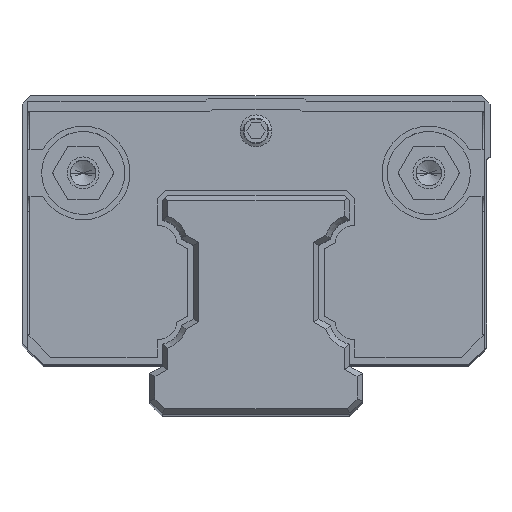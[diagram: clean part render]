
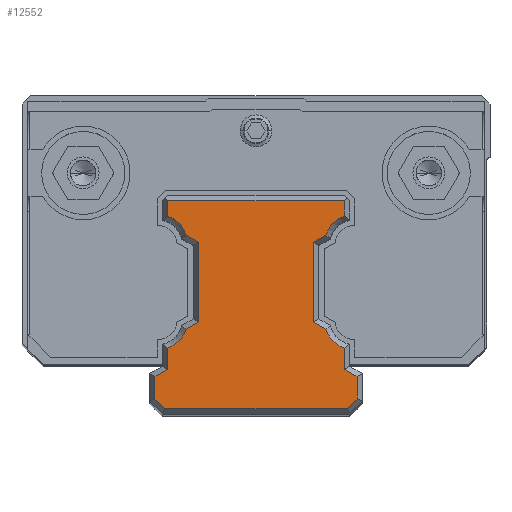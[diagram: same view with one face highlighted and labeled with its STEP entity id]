
A CAD part, top view. The second image highlights one B-rep face of the part: STEP entity #12552.
In plain terms, the highlighted planar face has unit normal (0, 0, 1).
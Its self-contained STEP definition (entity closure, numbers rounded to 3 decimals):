
#11866=DIRECTION('',(-1.,0.,0.));
#11867=VECTOR('',#11866,16.6);
#11868=CARTESIAN_POINT('',(8.3,7.65,65.5));
#11869=LINE('',#11868,#11867);
#11870=DIRECTION('',(0.,1.,0.));
#11871=VECTOR('',#11870,1.445);
#11872=CARTESIAN_POINT('',(8.3,6.205,65.5));
#11873=LINE('',#11872,#11871);
#11874=DIRECTION('',(0.866,0.5,0.));
#11875=VECTOR('',#11874,1.345);
#11876=CARTESIAN_POINT('',(5.4,3.739,65.5));
#11877=LINE('',#11876,#11875);
#11878=DIRECTION('',(0.,1.,0.));
#11879=VECTOR('',#11878,7.477);
#11880=CARTESIAN_POINT('',(5.4,-3.739,65.5));
#11881=LINE('',#11880,#11879);
#11882=DIRECTION('',(-0.866,0.5,0.));
#11883=VECTOR('',#11882,1.345);
#11884=CARTESIAN_POINT('',(6.565,-4.411,
65.5));
#11885=LINE('',#11884,#11883);
#11886=DIRECTION('',(0.,1.,0.));
#11887=VECTOR('',#11886,1.984);
#11888=CARTESIAN_POINT('',(8.3,-8.189,65.5));
#11889=LINE('',#11888,#11887);
#11890=DIRECTION('',(-0.866,0.5,0.));
#11891=VECTOR('',#11890,1.386);
#11892=CARTESIAN_POINT('',(9.5,-8.881,65.5));
#11893=LINE('',#11892,#11891);
#11894=DIRECTION('',(0.,1.,0.));
#11895=VECTOR('',#11894,2.111);
#11896=CARTESIAN_POINT('',(9.5,-10.993,65.5));
#11897=LINE('',#11896,#11895);
#11898=DIRECTION('',(0.707,0.707,0.));
#11899=VECTOR('',#11898,1.283);
#11900=CARTESIAN_POINT('',(8.593,-11.9,65.5));
#11901=LINE('',#11900,#11899);
#11902=DIRECTION('',(1.,0.,0.));
#11903=VECTOR('',#11902,17.186);
#11904=CARTESIAN_POINT('',(-8.593,-11.9,65.5));
#11905=LINE('',#11904,#11903);
#11906=DIRECTION('',(0.707,-0.707,0.));
#11907=VECTOR('',#11906,1.283);
#11908=CARTESIAN_POINT('',(-9.5,-10.993,65.5));
#11909=LINE('',#11908,#11907);
#11910=DIRECTION('',(0.,-1.,0.));
#11911=VECTOR('',#11910,2.111);
#11912=CARTESIAN_POINT('',(-9.5,-8.881,65.5));
#11913=LINE('',#11912,#11911);
#11914=DIRECTION('',(-0.866,-0.5,0.));
#11915=VECTOR('',#11914,1.386);
#11916=CARTESIAN_POINT('',(-8.3,-8.189,65.5));
#11917=LINE('',#11916,#11915);
#11918=DIRECTION('',(0.,-1.,0.));
#11919=VECTOR('',#11918,1.984);
#11920=CARTESIAN_POINT('',(-8.3,-6.205,
65.5));
#11921=LINE('',#11920,#11919);
#11922=DIRECTION('',(-0.866,-0.5,0.));
#11923=VECTOR('',#11922,1.345);
#11924=CARTESIAN_POINT('',(-5.4,-3.739,65.5));
#11925=LINE('',#11924,#11923);
#11926=DIRECTION('',(0.,-1.,0.));
#11927=VECTOR('',#11926,7.477);
#11928=CARTESIAN_POINT('',(-5.4,3.739,65.5));
#11929=LINE('',#11928,#11927);
#11930=DIRECTION('',(0.866,-0.5,0.));
#11931=VECTOR('',#11930,1.345);
#11932=CARTESIAN_POINT('',(-6.565,4.411,
65.5));
#11933=LINE('',#11932,#11931);
#11934=DIRECTION('',(0.,-1.,0.));
#11935=VECTOR('',#11934,1.445);
#11936=CARTESIAN_POINT('',(-8.3,7.65,65.5));
#11937=LINE('',#11936,#11935);
#11965=CARTESIAN_POINT('',(-9.242,3.557,65.5));
#11966=DIRECTION('',(0.,0.,-1.));
#11967=DIRECTION('',(0.335,0.942,0.));
#11968=AXIS2_PLACEMENT_3D('',#11965,#11966,#11967);
#12025=CARTESIAN_POINT('',(-9.242,-3.557,65.5));
#12026=DIRECTION('',(0.,0.,-1.));
#12027=DIRECTION('',(0.953,-0.304,0.));
#12028=AXIS2_PLACEMENT_3D('',#12025,#12026,#12027);
#12157=CARTESIAN_POINT('',(9.242,-3.557,65.5));
#12158=DIRECTION('',(0.,0.,-1.));
#12159=DIRECTION('',(-0.335,-0.942,0.));
#12160=AXIS2_PLACEMENT_3D('',#12157,#12158,#12159);
#12222=CARTESIAN_POINT('',(9.242,3.557,65.5));
#12223=DIRECTION('',(0.,0.,-1.));
#12224=DIRECTION('',(-0.953,0.304,0.));
#12225=AXIS2_PLACEMENT_3D('',#12222,#12223,#12224);
#12314=CARTESIAN_POINT('',(8.3,7.65,65.5));
#12315=CARTESIAN_POINT('',(-8.3,7.65,65.5));
#12316=VERTEX_POINT('',#12314);
#12317=VERTEX_POINT('',#12315);
#12322=CARTESIAN_POINT('',(8.3,6.205,65.5));
#12323=VERTEX_POINT('',#12322);
#12328=CARTESIAN_POINT('',(5.4,3.739,65.5));
#12329=CARTESIAN_POINT('',(6.565,4.411,65.5));
#12330=VERTEX_POINT('',#12328);
#12331=VERTEX_POINT('',#12329);
#12334=CARTESIAN_POINT('',(5.4,-3.739,65.5));
#12335=VERTEX_POINT('',#12334);
#12336=CARTESIAN_POINT('',(6.565,-4.411,
65.5));
#12337=VERTEX_POINT('',#12336);
#12344=CARTESIAN_POINT('',(8.3,-8.189,65.5));
#12345=CARTESIAN_POINT('',(8.3,-6.205,
65.5));
#12346=VERTEX_POINT('',#12344);
#12347=VERTEX_POINT('',#12345);
#12350=CARTESIAN_POINT('',(9.5,-8.881,65.5));
#12351=VERTEX_POINT('',#12350);
#12354=CARTESIAN_POINT('',(9.5,-10.993,65.5));
#12355=VERTEX_POINT('',#12354);
#12358=CARTESIAN_POINT('',(8.593,-11.9,65.5));
#12359=VERTEX_POINT('',#12358);
#12362=CARTESIAN_POINT('',(-8.593,-11.9,65.5));
#12363=VERTEX_POINT('',#12362);
#12366=CARTESIAN_POINT('',(-9.5,-10.993,65.5));
#12367=VERTEX_POINT('',#12366);
#12370=CARTESIAN_POINT('',(-9.5,-8.881,65.5));
#12371=VERTEX_POINT('',#12370);
#12374=CARTESIAN_POINT('',(-8.3,-8.189,65.5));
#12375=VERTEX_POINT('',#12374);
#12378=CARTESIAN_POINT('',(-8.3,-6.205,
65.5));
#12379=VERTEX_POINT('',#12378);
#12384=CARTESIAN_POINT('',(-5.4,-3.739,65.5));
#12385=CARTESIAN_POINT('',(-6.565,-4.411,
65.5));
#12386=VERTEX_POINT('',#12384);
#12387=VERTEX_POINT('',#12385);
#12390=CARTESIAN_POINT('',(-5.4,3.739,65.5));
#12391=VERTEX_POINT('',#12390);
#12394=CARTESIAN_POINT('',(-6.565,4.411,
65.5));
#12395=VERTEX_POINT('',#12394);
#12398=CARTESIAN_POINT('',(-8.3,6.205,
65.5));
#12399=VERTEX_POINT('',#12398);
#12503=CARTESIAN_POINT('',(0.,0.,65.5));
#12504=DIRECTION('',(0.,0.,1.));
#12505=DIRECTION('',(1.,0.,0.));
#12506=AXIS2_PLACEMENT_3D('',#12503,#12504,#12505);
#12507=PLANE('',#12506);
#12509=ORIENTED_EDGE('',*,*,#12508,.F.);
#12511=ORIENTED_EDGE('',*,*,#12510,.F.);
#12513=ORIENTED_EDGE('',*,*,#12512,.F.);
#12515=ORIENTED_EDGE('',*,*,#12514,.F.);
#12516=ORIENTED_EDGE('',*,*,#12481,.F.);
#12517=ORIENTED_EDGE('',*,*,#12493,.F.);
#12519=ORIENTED_EDGE('',*,*,#12518,.F.);
#12521=ORIENTED_EDGE('',*,*,#12520,.F.);
#12523=ORIENTED_EDGE('',*,*,#12522,.F.);
#12525=ORIENTED_EDGE('',*,*,#12524,.F.);
#12527=ORIENTED_EDGE('',*,*,#12526,.F.);
#12529=ORIENTED_EDGE('',*,*,#12528,.F.);
#12531=ORIENTED_EDGE('',*,*,#12530,.F.);
#12533=ORIENTED_EDGE('',*,*,#12532,.F.);
#12535=ORIENTED_EDGE('',*,*,#12534,.F.);
#12537=ORIENTED_EDGE('',*,*,#12536,.F.);
#12539=ORIENTED_EDGE('',*,*,#12538,.F.);
#12541=ORIENTED_EDGE('',*,*,#12540,.F.);
#12543=ORIENTED_EDGE('',*,*,#12542,.F.);
#12545=ORIENTED_EDGE('',*,*,#12544,.F.);
#12547=ORIENTED_EDGE('',*,*,#12546,.F.);
#12549=ORIENTED_EDGE('',*,*,#12548,.F.);
#12550=EDGE_LOOP('',(#12509,#12511,#12513,#12515,#12516,#12517,#12519,#12521,
#12523,#12525,#12527,#12529,#12531,#12533,#12535,#12537,#12539,#12541,#12543,
#12545,#12547,#12549));
#12551=FACE_OUTER_BOUND('',#12550,.F.);
#11969=CIRCLE('',#11968,2.81);
#12029=CIRCLE('',#12028,2.81);
#12161=CIRCLE('',#12160,2.81);
#12226=CIRCLE('',#12225,2.81);
#12481=EDGE_CURVE('',#12335,#12330,#11881,.T.);
#12493=EDGE_CURVE('',#12337,#12335,#11885,.T.);
#12508=EDGE_CURVE('',#12316,#12317,#11869,.T.);
#12510=EDGE_CURVE('',#12323,#12316,#11873,.T.);
#12512=EDGE_CURVE('',#12331,#12323,#12226,.T.);
#12514=EDGE_CURVE('',#12330,#12331,#11877,.T.);
#12518=EDGE_CURVE('',#12347,#12337,#12161,.T.);
#12520=EDGE_CURVE('',#12346,#12347,#11889,.T.);
#12522=EDGE_CURVE('',#12351,#12346,#11893,.T.);
#12524=EDGE_CURVE('',#12355,#12351,#11897,.T.);
#12526=EDGE_CURVE('',#12359,#12355,#11901,.T.);
#12528=EDGE_CURVE('',#12363,#12359,#11905,.T.);
#12530=EDGE_CURVE('',#12367,#12363,#11909,.T.);
#12532=EDGE_CURVE('',#12371,#12367,#11913,.T.);
#12534=EDGE_CURVE('',#12375,#12371,#11917,.T.);
#12536=EDGE_CURVE('',#12379,#12375,#11921,.T.);
#12538=EDGE_CURVE('',#12387,#12379,#12029,.T.);
#12540=EDGE_CURVE('',#12386,#12387,#11925,.T.);
#12542=EDGE_CURVE('',#12391,#12386,#11929,.T.);
#12544=EDGE_CURVE('',#12395,#12391,#11933,.T.);
#12546=EDGE_CURVE('',#12399,#12395,#11969,.T.);
#12548=EDGE_CURVE('',#12317,#12399,#11937,.T.);
#12552=ADVANCED_FACE('',(#12551),#12507,.T.);
